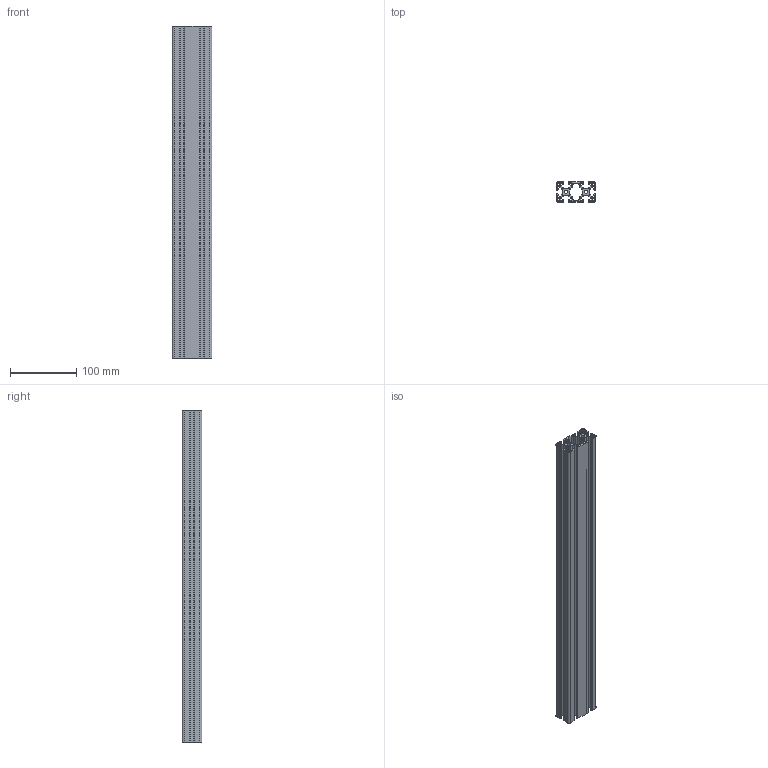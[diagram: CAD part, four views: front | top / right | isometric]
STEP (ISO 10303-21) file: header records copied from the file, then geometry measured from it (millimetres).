
FILE_DESCRIPTION (( 'STEP AP203' ), '1' );
FILE_NAME ('PP3070-500-Rollco.step', '2026-05-04T07:38:57', ( '' ), ( '' ), 'SwSTEP 2.0', 'SolidWorks 2014', '' );
FILE_SCHEMA (( 'CONFIG_CONTROL_DESIGN' ));
Length unit declared in the file: millimetre
Products named in the file (1): PP3070-500-Rollco
Bounding box: 60 x 30 x 500 mm (x, y, z)
Volume: 309778.3 mm3; surface area: 282097.6 mm2
Topology: 1 solids, 1 shells, 238 faces, 708 edges, 472 vertices
Faces by surface type: cylinder 120, plane 118
Entity records: 8157 total; most frequent: DIRECTION 1426, CARTESIAN_POINT 1419, ORIENTED_EDGE 1416, EDGE_CURVE 708, AXIS2_PLACEMENT_3D 479, VERTEX_POINT 472, VECTOR 468, LINE 468
